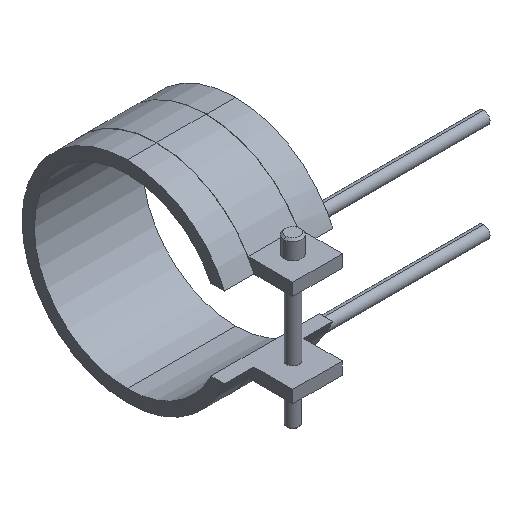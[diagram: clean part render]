
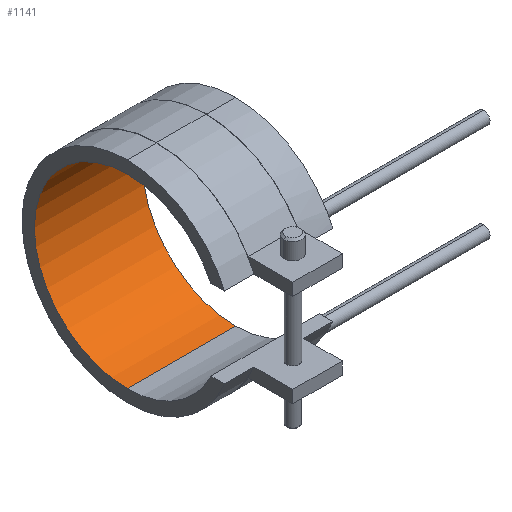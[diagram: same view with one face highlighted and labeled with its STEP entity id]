
A CAD part, isometric view. The second image highlights one B-rep face of the part: STEP entity #1141.
In plain terms, the highlighted cylindrical face has radius 30 mm (diameter 60 mm), a partial arc.
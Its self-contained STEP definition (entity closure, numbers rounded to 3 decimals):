
#822=CARTESIAN_POINT('Vertex',(-17.5,0.,-30.)) ;
#829=CARTESIAN_POINT('Vertex',(17.5,0.,-30.)) ;
#832=CARTESIAN_POINT('Line Origine',(17.5,0.,-30.)) ;
#850=CARTESIAN_POINT('Axis2P3D Location',(-17.5,0.,0.)) ;
#854=CARTESIAN_POINT('Vertex',(-17.5,0.,30.)) ;
#911=CARTESIAN_POINT('Vertex',(17.5,0.,30.)) ;
#921=CARTESIAN_POINT('Line Origine',(17.5,0.,30.)) ;
#1012=CARTESIAN_POINT('Axis2P3D Location',(17.5,0.,0.)) ;
#1130=CARTESIAN_POINT('Axis2P3D Location',(17.5,0.,0.)) ;
#833=DIRECTION('Vector Direction',(1.,0.,0.)) ;
#851=DIRECTION('Axis2P3D Direction',(1.,0.,0.)) ;
#922=DIRECTION('Vector Direction',(1.,0.,0.)) ;
#1013=DIRECTION('Axis2P3D Direction',(1.,0.,0.)) ;
#1131=DIRECTION('Axis2P3D Direction',(1.,0.,-0.)) ;
#1132=DIRECTION('Axis2P3D XDirection',(0.,0.,-1.)) ;
#852=AXIS2_PLACEMENT_3D('Circle Axis2P3D',#850,#851,$) ;
#1014=AXIS2_PLACEMENT_3D('Circle Axis2P3D',#1012,#1013,$) ;
#1133=AXIS2_PLACEMENT_3D('Cylinder Axis2P3D',#1130,#1131,#1132) ;
#1136=ORIENTED_EDGE('',*,*,#1016,.T.) ;
#1137=ORIENTED_EDGE('',*,*,#925,.T.) ;
#1138=ORIENTED_EDGE('',*,*,#856,.F.) ;
#1139=ORIENTED_EDGE('',*,*,#836,.T.) ;
#834=VECTOR('Line Direction',#833,1.) ;
#923=VECTOR('Line Direction',#922,1.) ;
#1141=ADVANCED_FACE('14060035',(#1140),#1134,.F.) ;
#853=CIRCLE('generated circle',#852,30.) ;
#1015=CIRCLE('generated circle',#1014,30.) ;
#1134=CYLINDRICAL_SURFACE('generated cylinder',#1133,30.) ;
#836=EDGE_CURVE('',#823,#830,#835,.T.) ;
#856=EDGE_CURVE('',#823,#855,#853,.T.) ;
#925=EDGE_CURVE('',#912,#855,#924,.F.) ;
#1016=EDGE_CURVE('',#830,#912,#1015,.T.) ;
#1135=EDGE_LOOP('',(#1136,#1137,#1138,#1139)) ;
#1140=FACE_OUTER_BOUND('',#1135,.T.) ;
#835=LINE('Line',#832,#834) ;
#924=LINE('Line',#921,#923) ;
#823=VERTEX_POINT('',#822) ;
#830=VERTEX_POINT('',#829) ;
#855=VERTEX_POINT('',#854) ;
#912=VERTEX_POINT('',#911) ;
